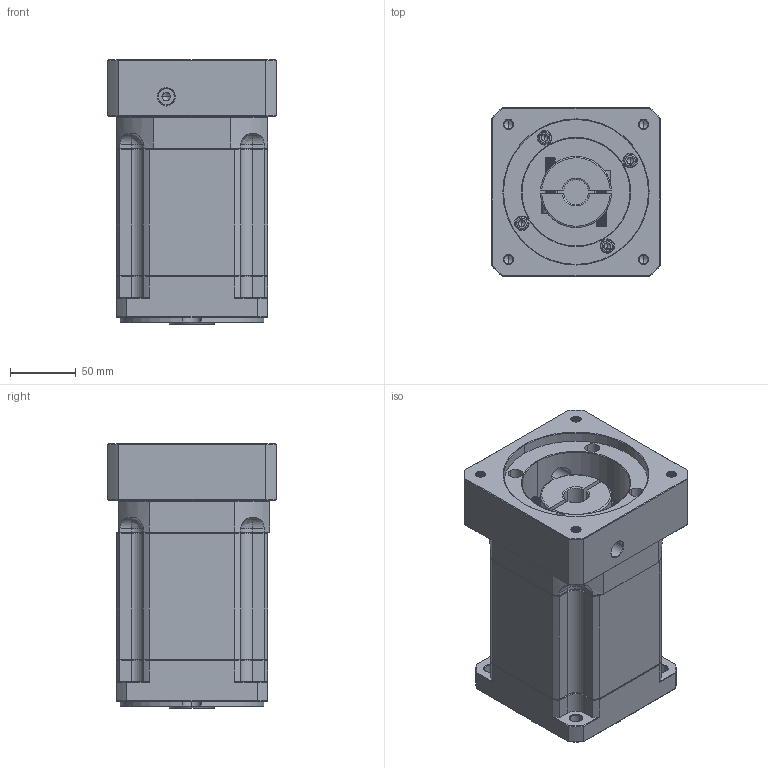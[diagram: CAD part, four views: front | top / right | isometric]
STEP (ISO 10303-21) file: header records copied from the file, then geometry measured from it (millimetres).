
FILE_DESCRIPTION (( 'STEP AP214' ), '1' );
FILE_NAME ('ZB115A-K25-L3-P2-19-110-145-M8.step', '2023-08-26T06:38:37', ( '' ), ( '' ), 'SwSTEP 2.0', 'SolidWorks 2016', '' );
FILE_SCHEMA (( 'AUTOMOTIVE_DESIGN' ));
Length unit declared in the file: millimetre
Products named in the file (1): ZB115A-K25-L3-P2-19-110-145-M8
Bounding box: 128 x 128 x 200.5 mm (x, y, z)
Volume: 2228767.6 mm3; surface area: 200400.4 mm2
Topology: 6 solids, 6 shells, 2336 faces, 6138 edges, 3901 vertices
Faces by surface type: plane 1136, bspline 414, cylinder 406, cone 360, torus 20
Entity records: 123652 total; most frequent: CARTESIAN_POINT 43704, ORIENTED_EDGE 12212, DIRECTION 9702, EDGE_CURVE 6106, LINE 3942, VECTOR 3942, VERTEX_POINT 3901, AXIS2_PLACEMENT_3D 2880
